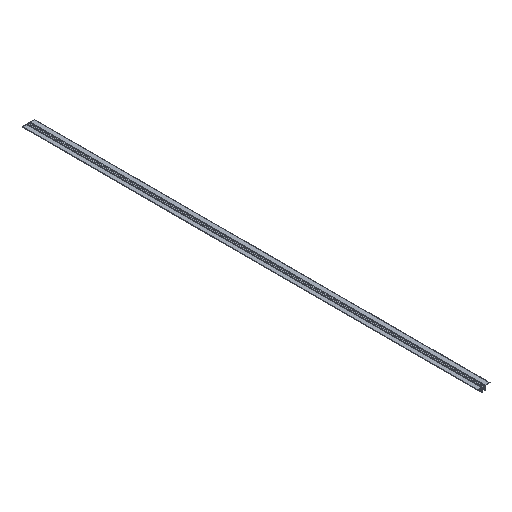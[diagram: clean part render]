
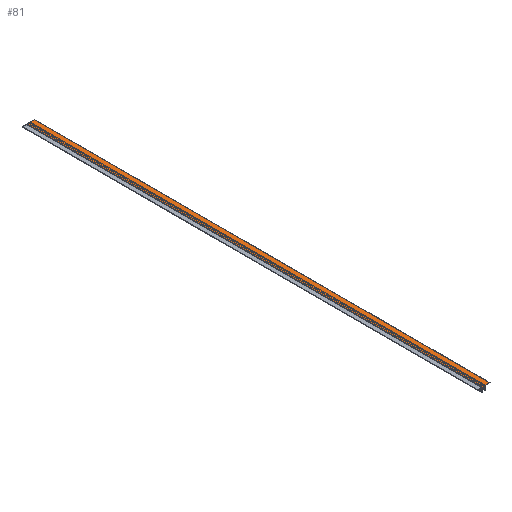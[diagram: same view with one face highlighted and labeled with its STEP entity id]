
A CAD part, isometric view. The second image highlights one B-rep face of the part: STEP entity #81.
In plain terms, the highlighted free-form (B-spline) face has degree [2, 1] with [3, 2] control points.
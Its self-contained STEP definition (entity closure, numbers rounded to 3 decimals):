
#81=ADVANCED_FACE('',(#149),#2597,.T.);
#149=FACE_OUTER_BOUND('',#217,.T.);
#217=EDGE_LOOP('',(#456,#457,#458,#459));
#456=ORIENTED_EDGE('',*,*,#2050,.T.);
#457=ORIENTED_EDGE('',*,*,#2051,.T.);
#458=ORIENTED_EDGE('',*,*,#2052,.T.);
#459=ORIENTED_EDGE('',*,*,#2048,.F.);
#849=PCURVE('',#2596,#1245);
#852=PCURVE('',#2597,#1248);
#853=PCURVE('',#2597,#1249);
#854=PCURVE('',#2597,#1250);
#855=PCURVE('',#2597,#1251);
#859=PCURVE('',#2598,#1255);
#896=PCURVE('',#2538,#1292);
#1011=PCURVE('',#2539,#1407);
#1245=DEFINITIONAL_REPRESENTATION('',(#1641),#4801);
#1248=DEFINITIONAL_REPRESENTATION('',(#1644),#4801);
#1249=DEFINITIONAL_REPRESENTATION('',(#1645),#4801);
#1250=DEFINITIONAL_REPRESENTATION('',(#1646),#4801);
#1251=DEFINITIONAL_REPRESENTATION('',(#1647),#4801);
#1255=DEFINITIONAL_REPRESENTATION('',(#1651),#4801);
#1292=DEFINITIONAL_REPRESENTATION('',(#2282),#4801);
#1407=DEFINITIONAL_REPRESENTATION('',(#2397),#4801);
#1641=B_SPLINE_CURVE_WITH_KNOTS('',1,(#4193,#4194),.UNSPECIFIED.,.F.,.F.,
(2,2),(0.,2000.),.UNSPECIFIED.);
#1644=B_SPLINE_CURVE_WITH_KNOTS('',1,(#4205,#4206),.UNSPECIFIED.,.F.,.F.,
(2,2),(-221.762,-187.261),.UNSPECIFIED.);
#1645=B_SPLINE_CURVE_WITH_KNOTS('',1,(#4209,#4210),.UNSPECIFIED.,.F.,.F.,
(2,2),(0.,2000.),.UNSPECIFIED.);
#1646=B_SPLINE_CURVE_WITH_KNOTS('',1,(#4214,#4215),.UNSPECIFIED.,.F.,.F.,
(2,2),(187.261,221.762),.UNSPECIFIED.);
#1647=B_SPLINE_CURVE_WITH_KNOTS('',1,(#4216,#4217),.UNSPECIFIED.,.F.,.F.,
(2,2),(0.,2000.),.UNSPECIFIED.);
#1651=B_SPLINE_CURVE_WITH_KNOTS('',1,(#4232,#4233),.UNSPECIFIED.,.F.,.F.,
(2,2),(0.,2000.),.UNSPECIFIED.);
#1850=SURFACE_CURVE('',#2246,(#849,#855),.PCURVE_S1.);
#1852=SURFACE_CURVE('',#2248,(#852,#896),.PCURVE_S1.);
#1853=SURFACE_CURVE('',#2249,(#853,#859),.PCURVE_S1.);
#1854=SURFACE_CURVE('',#2250,(#854,#1011),.PCURVE_S1.);
#2048=EDGE_CURVE('',#2520,#2521,#1850,.T.);
#2050=EDGE_CURVE('',#2520,#2522,#1852,.T.);
#2051=EDGE_CURVE('',#2522,#2523,#1853,.T.);
#2052=EDGE_CURVE('',#2523,#2521,#1854,.T.);
#2246=(
BOUNDED_CURVE()
B_SPLINE_CURVE(1,(#4191,#4192),.UNSPECIFIED.,.F.,.F.)
B_SPLINE_CURVE_WITH_KNOTS((2,2),(0.,2000.),.UNSPECIFIED.)
CURVE()
GEOMETRIC_REPRESENTATION_ITEM()
RATIONAL_B_SPLINE_CURVE((1.,1.))
REPRESENTATION_ITEM('')
);
#2248=(
BOUNDED_CURVE()
B_SPLINE_CURVE(2,(#4202,#4203,#4204),.UNSPECIFIED.,.F.,.F.)
B_SPLINE_CURVE_WITH_KNOTS((3,3),(-221.762,-187.261),
 .UNSPECIFIED.)
CURVE()
GEOMETRIC_REPRESENTATION_ITEM()
RATIONAL_B_SPLINE_CURVE((1.,1.,1.))
REPRESENTATION_ITEM('')
);
#2249=(
BOUNDED_CURVE()
B_SPLINE_CURVE(1,(#4207,#4208),.UNSPECIFIED.,.F.,.F.)
B_SPLINE_CURVE_WITH_KNOTS((2,2),(0.,2000.),.UNSPECIFIED.)
CURVE()
GEOMETRIC_REPRESENTATION_ITEM()
RATIONAL_B_SPLINE_CURVE((1.,1.))
REPRESENTATION_ITEM('')
);
#2250=(
BOUNDED_CURVE()
B_SPLINE_CURVE(2,(#4211,#4212,#4213),.UNSPECIFIED.,.F.,.F.)
B_SPLINE_CURVE_WITH_KNOTS((3,3),(187.261,221.762),
 .UNSPECIFIED.)
CURVE()
GEOMETRIC_REPRESENTATION_ITEM()
RATIONAL_B_SPLINE_CURVE((1.,1.,1.))
REPRESENTATION_ITEM('')
);
#2282=(
BOUNDED_CURVE()
B_SPLINE_CURVE(2,(#4368,#4369,#4370),.UNSPECIFIED.,.F.,.F.)
B_SPLINE_CURVE_WITH_KNOTS((3,3),(-221.762,-187.261),
 .UNSPECIFIED.)
CURVE()
GEOMETRIC_REPRESENTATION_ITEM()
RATIONAL_B_SPLINE_CURVE((1.,1.,1.))
REPRESENTATION_ITEM('')
);
#2397=(
BOUNDED_CURVE()
B_SPLINE_CURVE(2,(#4773,#4774,#4775),.UNSPECIFIED.,.F.,.F.)
B_SPLINE_CURVE_WITH_KNOTS((3,3),(187.261,221.762),
 .UNSPECIFIED.)
CURVE()
GEOMETRIC_REPRESENTATION_ITEM()
RATIONAL_B_SPLINE_CURVE((1.,1.,1.))
REPRESENTATION_ITEM('')
);
#2520=VERTEX_POINT('',#3210);
#2521=VERTEX_POINT('',#3211);
#2522=VERTEX_POINT('',#3212);
#2523=VERTEX_POINT('',#3213);
#2538=B_SPLINE_SURFACE_WITH_KNOTS('',1,1,((#3088,#3089),(#3090,#3091)),
 .UNSPECIFIED.,.F.,.F.,.F.,(2,2),(2,2),(-3.412,22.483),
(-42.295,25.205),.UNSPECIFIED.);
#2539=B_SPLINE_SURFACE_WITH_KNOTS('',1,1,((#3092,#3093),(#3094,#3095)),
 .UNSPECIFIED.,.F.,.F.,.F.,(2,2),(2,2),(-42.295,25.205),
(-3.412,22.483),.UNSPECIFIED.);
#2596=(
BOUNDED_SURFACE()
B_SPLINE_SURFACE(2,1,((#3028,#3029),(#3030,#3031),(#3032,#3033)),
 .UNSPECIFIED.,.F.,.F.,.F.)
B_SPLINE_SURFACE_WITH_KNOTS((3,3),(2,2),(-222.077,-221.762),
(0.,2000.),.UNSPECIFIED.)
GEOMETRIC_REPRESENTATION_ITEM()
RATIONAL_B_SPLINE_SURFACE(((1.,1.),(0.707,0.707),
(1.,1.)))
REPRESENTATION_ITEM('')
SURFACE()
);
#2597=(
BOUNDED_SURFACE()
B_SPLINE_SURFACE(2,1,((#3034,#3035),(#3036,#3037),(#3038,#3039)),
 .UNSPECIFIED.,.F.,.F.,.F.)
B_SPLINE_SURFACE_WITH_KNOTS((3,3),(2,2),(-221.762,-187.261),
(0.,2000.),.UNSPECIFIED.)
GEOMETRIC_REPRESENTATION_ITEM()
RATIONAL_B_SPLINE_SURFACE(((1.,1.),(1.,1.),(1.,1.)))
REPRESENTATION_ITEM('')
SURFACE()
);
#2598=(
BOUNDED_SURFACE()
B_SPLINE_SURFACE(2,1,((#3040,#3041),(#3042,#3043),(#3044,#3045)),
 .UNSPECIFIED.,.F.,.F.,.F.)
B_SPLINE_SURFACE_WITH_KNOTS((3,3),(2,2),(-187.261,-186.883),
(0.,2000.),.UNSPECIFIED.)
GEOMETRIC_REPRESENTATION_ITEM()
RATIONAL_B_SPLINE_SURFACE(((1.,1.),(1.,1.),(1.,1.)))
REPRESENTATION_ITEM('')
SURFACE()
);
#3028=CARTESIAN_POINT('',(27.,2000.,20.516));
#3029=CARTESIAN_POINT('',(27.,0.,20.516));
#3030=CARTESIAN_POINT('',(27.,2000.,20.716));
#3031=CARTESIAN_POINT('',(27.,0.,20.716));
#3032=CARTESIAN_POINT('',(26.8,2000.,20.716));
#3033=CARTESIAN_POINT('',(26.8,0.,20.716));
#3034=CARTESIAN_POINT('',(26.8,2000.,20.716));
#3035=CARTESIAN_POINT('',(26.8,0.,20.716));
#3036=CARTESIAN_POINT('',(9.48,2000.,20.716));
#3037=CARTESIAN_POINT('',(9.48,0.,20.716));
#3038=CARTESIAN_POINT('',(-7.839,2000.,20.716));
#3039=CARTESIAN_POINT('',(-7.839,0.,20.716));
#3040=CARTESIAN_POINT('',(-7.839,2000.,20.716));
#3041=CARTESIAN_POINT('',(-7.839,0.,20.716));
#3042=CARTESIAN_POINT('',(-8.004,2000.,20.624));
#3043=CARTESIAN_POINT('',(-8.004,0.,20.624));
#3044=CARTESIAN_POINT('',(-8.169,2000.,20.532));
#3045=CARTESIAN_POINT('',(-8.169,0.,20.532));
#3088=CARTESIAN_POINT('',(33.75,2000.,23.305));
#3089=CARTESIAN_POINT('',(-33.75,2000.,23.305));
#3090=CARTESIAN_POINT('',(33.75,2000.,-2.59));
#3091=CARTESIAN_POINT('',(-33.75,2000.,-2.59));
#3092=CARTESIAN_POINT('',(33.75,0.,23.305));
#3093=CARTESIAN_POINT('',(33.75,0.,-2.59));
#3094=CARTESIAN_POINT('',(-33.75,0.,23.305));
#3095=CARTESIAN_POINT('',(-33.75,0.,-2.59));
#3210=CARTESIAN_POINT('',(26.8,2000.,20.716));
#3211=CARTESIAN_POINT('',(26.8,0.,20.716));
#3212=CARTESIAN_POINT('',(-7.839,2000.,20.716));
#3213=CARTESIAN_POINT('',(-7.839,0.,20.716));
#4191=CARTESIAN_POINT('',(26.8,2000.,20.716));
#4192=CARTESIAN_POINT('',(26.8,0.,20.716));
#4193=CARTESIAN_POINT('',(-221.762,0.));
#4194=CARTESIAN_POINT('',(-221.762,2000.));
#4202=CARTESIAN_POINT('',(26.8,2000.,20.716));
#4203=CARTESIAN_POINT('',(9.48,2000.,20.716));
#4204=CARTESIAN_POINT('',(-7.839,2000.,20.716));
#4205=CARTESIAN_POINT('',(-221.762,0.));
#4206=CARTESIAN_POINT('',(-187.261,0.));
#4207=CARTESIAN_POINT('',(-7.839,2000.,20.716));
#4208=CARTESIAN_POINT('',(-7.839,0.,20.716));
#4209=CARTESIAN_POINT('',(-187.261,0.));
#4210=CARTESIAN_POINT('',(-187.261,2000.));
#4211=CARTESIAN_POINT('',(-7.839,0.,20.716));
#4212=CARTESIAN_POINT('',(9.48,0.,20.716));
#4213=CARTESIAN_POINT('',(26.8,0.,20.716));
#4214=CARTESIAN_POINT('',(-187.261,2000.));
#4215=CARTESIAN_POINT('',(-221.762,2000.));
#4216=CARTESIAN_POINT('',(-221.762,0.));
#4217=CARTESIAN_POINT('',(-221.762,2000.));
#4232=CARTESIAN_POINT('',(-187.261,0.));
#4233=CARTESIAN_POINT('',(-187.261,2000.));
#4368=CARTESIAN_POINT('',(-0.822,-35.345));
#4369=CARTESIAN_POINT('',(-0.822,-18.025));
#4370=CARTESIAN_POINT('',(-0.822,-0.705));
#4773=CARTESIAN_POINT('',(-0.705,-0.822));
#4774=CARTESIAN_POINT('',(-18.025,-0.822));
#4775=CARTESIAN_POINT('',(-35.345,-0.822));
#4801=(
GEOMETRIC_REPRESENTATION_CONTEXT(2)
PARAMETRIC_REPRESENTATION_CONTEXT()
REPRESENTATION_CONTEXT('pspace','')
);
